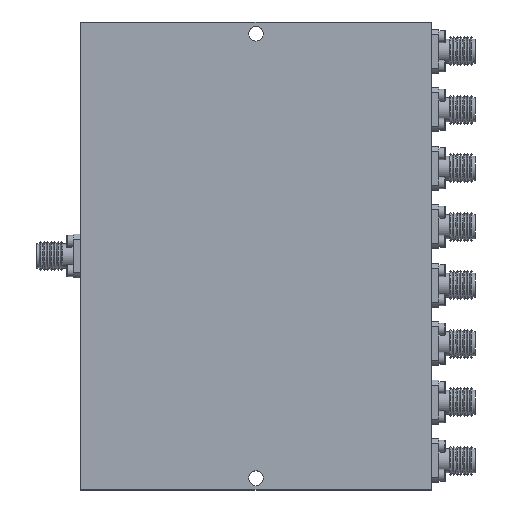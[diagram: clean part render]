
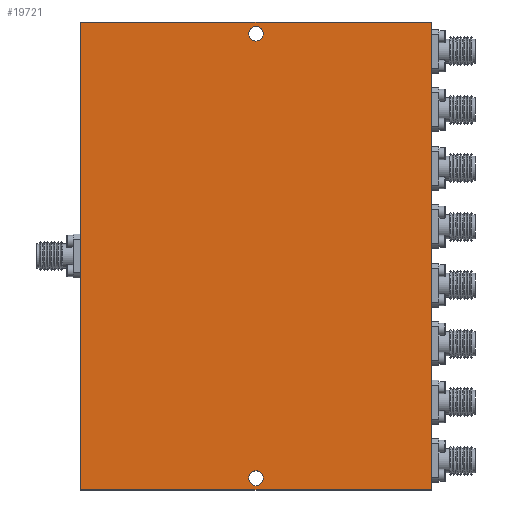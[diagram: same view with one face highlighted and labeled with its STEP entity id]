
A CAD part, top view. The second image highlights one B-rep face of the part: STEP entity #19721.
In plain terms, the highlighted planar face has unit normal (0, 0, 1).
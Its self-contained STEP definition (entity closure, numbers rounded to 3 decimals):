
#959=CIRCLE('',#20172,1.6);
#961=CIRCLE('',#20175,1.6);
#3967=ORIENTED_EDGE('',*,*,#4562,.T.);
#3968=ORIENTED_EDGE('',*,*,#4636,.T.);
#3969=ORIENTED_EDGE('',*,*,#4550,.T.);
#3970=ORIENTED_EDGE('',*,*,#4635,.T.);
#3971=ORIENTED_EDGE('',*,*,#4632,.F.);
#3972=ORIENTED_EDGE('',*,*,#4630,.F.);
#4550=EDGE_CURVE('',#6034,#6033,#7296,.T.);
#4562=EDGE_CURVE('',#6046,#6045,#7304,.T.);
#4630=EDGE_CURVE('',#6113,#6113,#959,.T.);
#4632=EDGE_CURVE('',#6115,#6115,#961,.T.);
#4635=EDGE_CURVE('',#6033,#6046,#7341,.T.);
#4636=EDGE_CURVE('',#6045,#6034,#7342,.T.);
#6033=VERTEX_POINT('',#25649);
#6034=VERTEX_POINT('',#25651);
#6045=VERTEX_POINT('',#25674);
#6046=VERTEX_POINT('',#25676);
#6113=VERTEX_POINT('',#25812);
#6115=VERTEX_POINT('',#25817);
#7296=LINE('',#25650,#7884);
#7304=LINE('',#25675,#7892);
#7341=LINE('',#25822,#7929);
#7342=LINE('',#25824,#7930);
#7884=VECTOR('',#21778,1000.);
#7892=VECTOR('',#21796,1000.);
#7929=VECTOR('',#21913,1000.);
#7930=VECTOR('',#21916,1000.);
#9490=EDGE_LOOP('',(#3967,#3968,#3969,#3970));
#9491=EDGE_LOOP('',(#3971));
#9492=EDGE_LOOP('',(#3972));
#11124=FACE_BOUND('',#9490,.T.);
#11125=FACE_BOUND('',#9491,.T.);
#11126=FACE_BOUND('',#9492,.T.);
#12077=PLANE('',#21178);
#19721=ADVANCED_FACE('',(#11124,#11125,#11126),#12077,.T.);
#20172=AXIS2_PLACEMENT_3D('',#25811,#21899,#21900);
#20175=AXIS2_PLACEMENT_3D('',#25816,#21905,#21906);
#21178=AXIS2_PLACEMENT_3D('',#29083,#24455,#24456);
#21778=DIRECTION('',(0.,-1.,0.));
#21796=DIRECTION('',(0.,1.,0.));
#21899=DIRECTION('',(0.,0.,1.));
#21900=DIRECTION('',(1.,0.,0.));
#21905=DIRECTION('',(0.,0.,1.));
#21906=DIRECTION('',(1.,0.,0.));
#21913=DIRECTION('',(1.,0.,0.));
#21916=DIRECTION('',(-1.,0.,0.));
#24455=DIRECTION('',(0.,0.,1.));
#24456=DIRECTION('',(1.,0.,0.));
#25649=CARTESIAN_POINT('',(-38.1,-50.8,6.286));
#25650=CARTESIAN_POINT('',(-38.1,50.8,6.286));
#25651=CARTESIAN_POINT('',(-38.1,50.8,6.286));
#25674=CARTESIAN_POINT('',(38.1,50.8,6.286));
#25675=CARTESIAN_POINT('',(38.1,-50.8,6.286));
#25676=CARTESIAN_POINT('',(38.1,-50.8,6.286));
#25811=CARTESIAN_POINT('',(0.,-48.26,6.286));
#25812=CARTESIAN_POINT('',(1.6,-48.26,6.286));
#25816=CARTESIAN_POINT('',(0.,48.26,6.286));
#25817=CARTESIAN_POINT('',(1.6,48.26,6.286));
#25822=CARTESIAN_POINT('',(-38.1,-50.8,6.286));
#25824=CARTESIAN_POINT('',(38.1,50.8,6.286));
#29083=CARTESIAN_POINT('',(0.,0.,
6.286));
